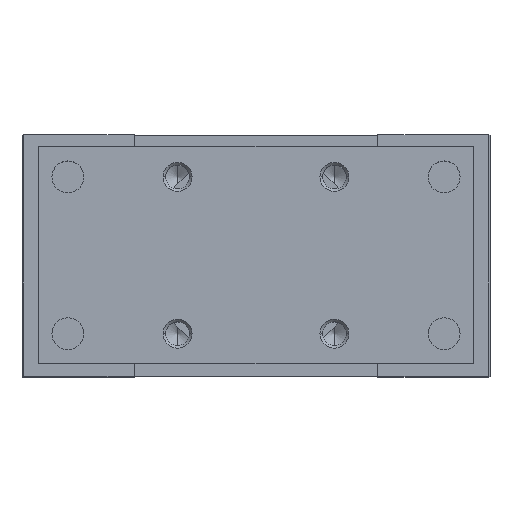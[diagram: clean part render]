
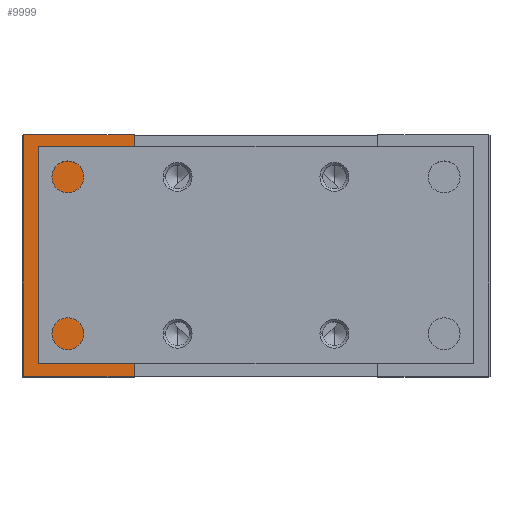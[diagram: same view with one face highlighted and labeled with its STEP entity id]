
A CAD part, top view. The second image highlights one B-rep face of the part: STEP entity #9999.
In plain terms, the highlighted planar face has unit normal (0, 0, 1).
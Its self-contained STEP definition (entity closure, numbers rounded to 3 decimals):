
#61 = VERTEX_POINT ( 'NONE', #1991 ) ;
#133 = CARTESIAN_POINT ( 'NONE',  ( -48.5, 25., 49. ) ) ;
#351 = VECTOR ( 'NONE', #10564, 1000. ) ;
#381 = AXIS2_PLACEMENT_3D ( 'NONE', #2514, #3414, #9403 ) ;
#704 = FACE_BOUND ( 'NONE', #5495, .T. ) ;
#1015 = EDGE_CURVE ( 'NONE', #3664, #61, #7819, .T. ) ;
#1646 = DIRECTION ( 'NONE',  ( 0., 0., 1. ) ) ;
#1991 = CARTESIAN_POINT ( 'NONE',  ( -25.25, -25., 49. ) ) ;
#2067 = DIRECTION ( 'NONE',  ( 1., 0., 0. ) ) ;
#2199 = DIRECTION ( 'NONE',  ( 0., -1., 0. ) ) ;
#2302 = CARTESIAN_POINT ( 'NONE',  ( -48.2, 50., 49. ) ) ;
#2514 = CARTESIAN_POINT ( 'NONE',  ( -48.5, 25., 49. ) ) ;
#2882 = CARTESIAN_POINT ( 'NONE',  ( -48.5, -25., 49. ) ) ;
#2991 = LINE ( 'NONE', #2882, #10841 ) ;
#3025 = DIRECTION ( 'NONE',  ( 0., 0., 1. ) ) ;
#3193 = AXIS2_PLACEMENT_3D ( 'NONE', #3916, #1646, #10750 ) ;
#3414 = DIRECTION ( 'NONE',  ( 0., 0., -1. ) ) ;
#3664 = VERTEX_POINT ( 'NONE', #8104 ) ;
#3900 = ORIENTED_EDGE ( 'NONE', *, *, #10619, .T. ) ;
#3916 = CARTESIAN_POINT ( 'NONE',  ( -37., 0., 49. ) ) ;
#4014 = CARTESIAN_POINT ( 'NONE',  ( -48.2, 25., 49. ) ) ;
#4041 = LINE ( 'NONE', #2302, #6256 ) ;
#4195 = VERTEX_POINT ( 'NONE', #4014 ) ;
#4260 = ORIENTED_EDGE ( 'NONE', *, *, #6938, .F. ) ;
#5402 = VECTOR ( 'NONE', #6744, 1000. ) ;
#5423 = LINE ( 'NONE', #133, #351 ) ;
#5490 = EDGE_CURVE ( 'NONE', #7127, #10902, #9322, .T. ) ;
#5495 = EDGE_LOOP ( 'NONE', ( #5545, #5575 ) ) ;
#5545 = ORIENTED_EDGE ( 'NONE', *, *, #5490, .F. ) ;
#5575 = ORIENTED_EDGE ( 'NONE', *, *, #11079, .F. ) ;
#5807 = VERTEX_POINT ( 'NONE', #8076 ) ;
#5936 = FACE_OUTER_BOUND ( 'NONE', #8527, .T. ) ;
#6198 = EDGE_CURVE ( 'NONE', #4195, #5807, #4041, .T. ) ;
#6256 = VECTOR ( 'NONE', #2199, 1000. ) ;
#6316 = DIRECTION ( 'NONE',  ( 1., 0., 0. ) ) ;
#6728 = ORIENTED_EDGE ( 'NONE', *, *, #6198, .T. ) ;
#6744 = DIRECTION ( 'NONE',  ( 0., -1., 0. ) ) ;
#6794 = CARTESIAN_POINT ( 'NONE',  ( -25.25, 25., 49. ) ) ;
#6938 = EDGE_CURVE ( 'NONE', #4195, #3664, #5423, .T. ) ;
#7127 = VERTEX_POINT ( 'NONE', #7521 ) ;
#7521 = CARTESIAN_POINT ( 'NONE',  ( -43., 0., 49. ) ) ;
#7646 = PLANE ( 'NONE',  #381 ) ;
#7798 = CIRCLE ( 'NONE', #10496, 6. ) ;
#7819 = LINE ( 'NONE', #6794, #5402 ) ;
#7999 = CARTESIAN_POINT ( 'NONE',  ( -37., 0., 49. ) ) ;
#8076 = CARTESIAN_POINT ( 'NONE',  ( -48.2, -25., 49. ) ) ;
#8104 = CARTESIAN_POINT ( 'NONE',  ( -25.25, 25., 49. ) ) ;
#8527 = EDGE_LOOP ( 'NONE', ( #4260, #6728, #3900, #9818 ) ) ;
#8991 = CARTESIAN_POINT ( 'NONE',  ( -31., 0., 49. ) ) ;
#9322 = CIRCLE ( 'NONE', #3193, 6. ) ;
#9403 = DIRECTION ( 'NONE',  ( 0., -1., 0. ) ) ;
#9818 = ORIENTED_EDGE ( 'NONE', *, *, #1015, .F. ) ;
#9999 = ADVANCED_FACE ( 'NONE', ( #5936, #704 ), #7646, .F. ) ;
#10496 = AXIS2_PLACEMENT_3D ( 'NONE', #7999, #3025, #2067 ) ;
#10564 = DIRECTION ( 'NONE',  ( 1., 0., 0. ) ) ;
#10619 = EDGE_CURVE ( 'NONE', #5807, #61, #2991, .T. ) ;
#10750 = DIRECTION ( 'NONE',  ( 1., 0., 0. ) ) ;
#10841 = VECTOR ( 'NONE', #6316, 1000. ) ;
#10902 = VERTEX_POINT ( 'NONE', #8991 ) ;
#11079 = EDGE_CURVE ( 'NONE', #10902, #7127, #7798, .T. ) ;
